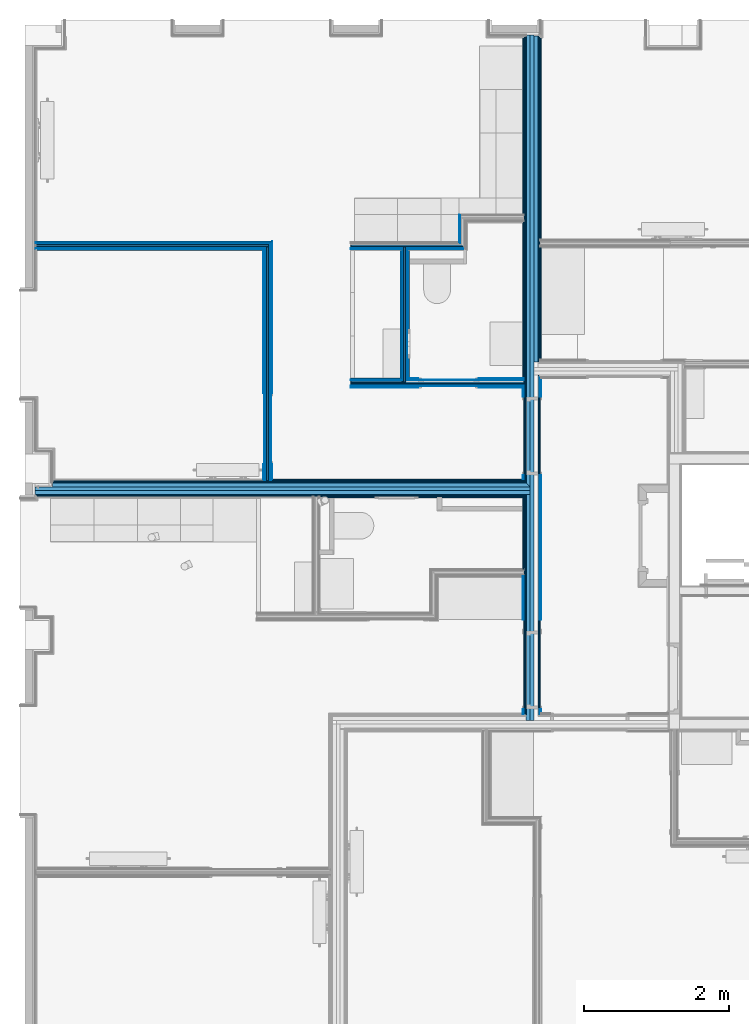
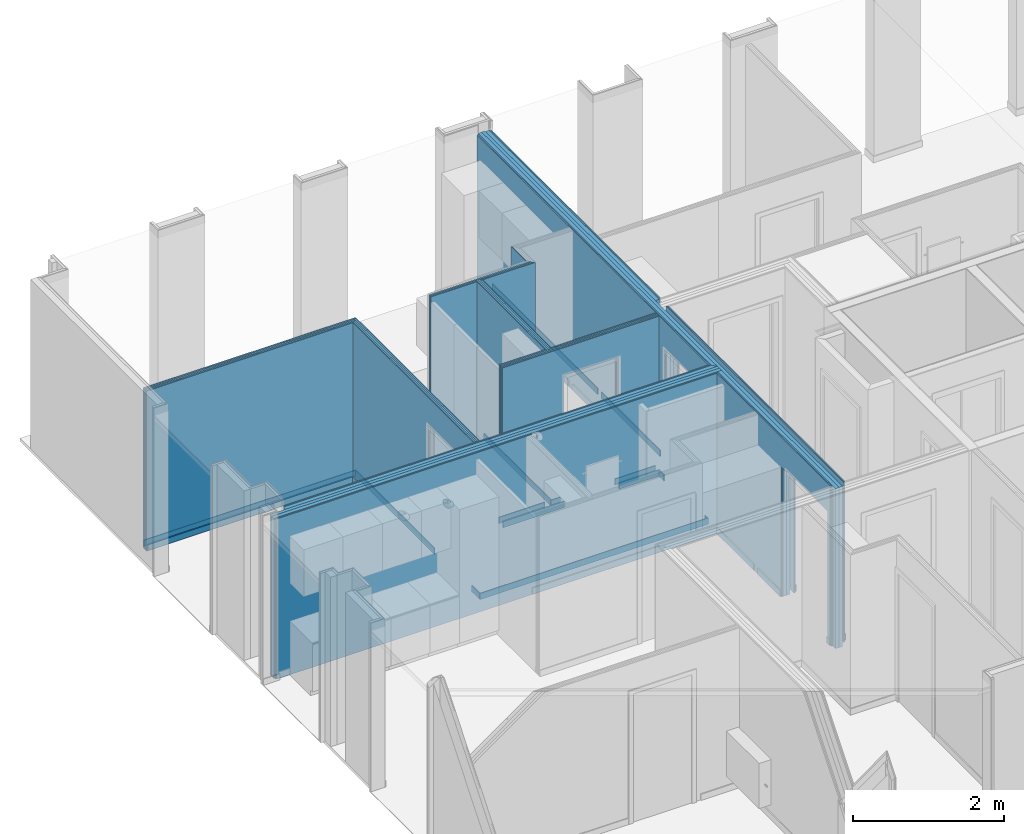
# One storey, part 13 of 85: 63 building element parts, 5 openings, 8 elements without a shape of their own.
"""IFC2X3 building model written with IfcOpenShell, lengths in metres."""

from ifc_helpers import new_model, entity, si_unit, converted_unit, derived_unit, money_unit, direction, frame, frame_2d, origin_with_axes, place, context, subcontext, project, spatial, polyline, rectangle, outline, extrude, material, type_object, element, aggregate, save


model = new_model("IFC2X3")

# Units and contexts
model_context = context("Model", 3, precision=1e-05, world=origin_with_axes(), true_north=direction((0.0, 1.0)))
body_context = subcontext(model_context, "Body", "Model", "MODEL_VIEW", scale=1.0)
ifc_project = project(units=[si_unit("LENGTHUNIT", "METRE"), si_unit("AREAUNIT", "SQUARE_METRE"), si_unit("VOLUMEUNIT", "CUBIC_METRE"), si_unit("ABSORBEDDOSEUNIT", "GRAY"), si_unit("AMOUNTOFSUBSTANCEUNIT", "MOLE"), si_unit("DOSEEQUIVALENTUNIT", "SIEVERT"), si_unit("ELECTRICCAPACITANCEUNIT", "FARAD"), si_unit("ELECTRICCHARGEUNIT", "COULOMB"), si_unit("ELECTRICCONDUCTANCEUNIT", "SIEMENS"), si_unit("ELECTRICCURRENTUNIT", "AMPERE"), si_unit("ELECTRICRESISTANCEUNIT", "OHM"), si_unit("ELECTRICVOLTAGEUNIT", "VOLT"), si_unit("ENERGYUNIT", "JOULE"), si_unit("FORCEUNIT", "NEWTON"), si_unit("FREQUENCYUNIT", "HERTZ"), si_unit("ILLUMINANCEUNIT", "LUX"), si_unit("INDUCTANCEUNIT", "HENRY"), si_unit("LUMINOUSFLUXUNIT", "LUMEN"), si_unit("LUMINOUSINTENSITYUNIT", "CANDELA"), si_unit("MAGNETICFLUXDENSITYUNIT", "TESLA"), si_unit("MAGNETICFLUXUNIT", "WEBER"), si_unit("MASSUNIT", "GRAM"), converted_unit("PLANEANGLEUNIT", "degree", entity("IfcReal", 0.0174532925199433), si_unit("PLANEANGLEUNIT", "RADIAN"), dimensions=[0, 0, 0, 0, 0, 0, 0]), si_unit("POWERUNIT", "WATT"), si_unit("PRESSUREUNIT", "PASCAL"), si_unit("RADIOACTIVITYUNIT", "BECQUEREL"), si_unit("SOLIDANGLEUNIT", "STERADIAN"), si_unit("THERMODYNAMICTEMPERATUREUNIT", "KELVIN"), si_unit("TIMEUNIT", "SECOND"), derived_unit("ACCELERATIONUNIT", [(si_unit("LENGTHUNIT", "METRE"), 1), (si_unit("TIMEUNIT", "SECOND"), -2)]), derived_unit("ANGULARVELOCITYUNIT", [(converted_unit("PLANEANGLEUNIT", "degree", entity("IfcReal", 0.0174532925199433), si_unit("PLANEANGLEUNIT", "RADIAN"), dimensions=[0, 0, 0, 0, 0, 0, 0]), 1), (si_unit("TIMEUNIT", "SECOND"), -1)]), derived_unit("CURVATUREUNIT", [(converted_unit("PLANEANGLEUNIT", "degree", entity("IfcReal", 0.0174532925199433), si_unit("PLANEANGLEUNIT", "RADIAN"), dimensions=[0, 0, 0, 0, 0, 0, 0]), 1), (si_unit("LENGTHUNIT", "METRE"), -1)]), derived_unit("DYNAMICVISCOSITYUNIT", [(si_unit("PRESSUREUNIT", "PASCAL"), 1), (si_unit("TIMEUNIT", "SECOND"), 1)]), derived_unit("HEATFLUXDENSITYUNIT", [(si_unit("POWERUNIT", "WATT"), 1), (si_unit("LENGTHUNIT", "METRE"), -2)]), derived_unit("HEATINGVALUEUNIT", [(si_unit("ENERGYUNIT", "JOULE"), 1), (si_unit("MASSUNIT", "GRAM"), -1)]), derived_unit("INTEGERCOUNTRATEUNIT", [(si_unit("TIMEUNIT", "SECOND"), -1)]), derived_unit("IONCONCENTRATIONUNIT", [(si_unit("MASSUNIT", "GRAM"), 1), (si_unit("VOLUMEUNIT", "CUBIC_METRE"), -1)]), derived_unit("ISOTHERMALMOISTURECAPACITYUNIT", [(si_unit("VOLUMEUNIT", "CUBIC_METRE"), 1), (si_unit("MASSUNIT", "GRAM"), -1)]), derived_unit("KINEMATICVISCOSITYUNIT", [(si_unit("AREAUNIT", "SQUARE_METRE"), 1), (si_unit("TIMEUNIT", "SECOND"), -1)]), derived_unit("LINEARFORCEUNIT", [(si_unit("FORCEUNIT", "NEWTON"), 1), (si_unit("LENGTHUNIT", "METRE"), -1)]), derived_unit("LINEARMOMENTUNIT", [(si_unit("FORCEUNIT", "NEWTON"), 1), (si_unit("LENGTHUNIT", "METRE"), -1)]), derived_unit("LINEARSTIFFNESSUNIT", [(si_unit("FORCEUNIT", "NEWTON"), 1), (si_unit("LENGTHUNIT", "METRE"), -1)]), derived_unit("LINEARVELOCITYUNIT", [(si_unit("LENGTHUNIT", "METRE"), 1), (si_unit("TIMEUNIT", "SECOND"), -1)]), derived_unit("LUMINOUSINTENSITYDISTRIBUTIONUNIT", [(si_unit("LUMINOUSINTENSITYUNIT", "CANDELA"), 1), (si_unit("LUMINOUSFLUXUNIT", "LUMEN"), -1)]), derived_unit("MASSDENSITYUNIT", [(si_unit("MASSUNIT", "GRAM"), 1), (si_unit("VOLUMEUNIT", "CUBIC_METRE"), -1)]), derived_unit("MASSFLOWRATEUNIT", [(si_unit("MASSUNIT", "GRAM"), 1), (si_unit("TIMEUNIT", "SECOND"), -1)]), derived_unit("MASSPERLENGTHUNIT", [(si_unit("MASSUNIT", "GRAM"), 1), (si_unit("LENGTHUNIT", "METRE"), -1)]), derived_unit("MODULUSOFELASTICITYUNIT", [(si_unit("FORCEUNIT", "NEWTON"), 1), (si_unit("AREAUNIT", "SQUARE_METRE"), -1)]), derived_unit("MODULUSOFLINEARSUBGRADEREACTIONUNIT", [(si_unit("FORCEUNIT", "NEWTON"), 1), (si_unit("LENGTHUNIT", "METRE"), -2)]), derived_unit("MODULUSOFROTATIONALSUBGRADEREACTIONUNIT", [(si_unit("FORCEUNIT", "NEWTON"), 1), (si_unit("LENGTHUNIT", "METRE"), 1)]), derived_unit("MODULUSOFSUBGRADEREACTIONUNIT", [(si_unit("FORCEUNIT", "NEWTON"), 1), (si_unit("VOLUMEUNIT", "CUBIC_METRE"), -1)]), derived_unit("MOISTUREDIFFUSIVITYUNIT", [(si_unit("VOLUMEUNIT", "CUBIC_METRE"), 1), (si_unit("TIMEUNIT", "SECOND"), -1)]), derived_unit("MOLECULARWEIGHTUNIT", [(si_unit("MASSUNIT", "GRAM"), 1), (si_unit("AMOUNTOFSUBSTANCEUNIT", "MOLE"), -1)]), derived_unit("PLANARFORCEUNIT", [(si_unit("FORCEUNIT", "NEWTON"), 1), (si_unit("LENGTHUNIT", "METRE"), -2)]), derived_unit("ROTATIONALFREQUENCYUNIT", [(si_unit("TIMEUNIT", "SECOND"), -1)]), derived_unit("ROTATIONALMASSUNIT", [(si_unit("MASSUNIT", "GRAM"), 1), (si_unit("LENGTHUNIT", "METRE"), 2)]), derived_unit("ROTATIONALSTIFFNESSUNIT", [(si_unit("FORCEUNIT", "NEWTON"), 1), (si_unit("LENGTHUNIT", "METRE"), 1), (converted_unit("PLANEANGLEUNIT", "degree", entity("IfcReal", 0.0174532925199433), si_unit("PLANEANGLEUNIT", "RADIAN"), dimensions=[0, 0, 0, 0, 0, 0, 0]), -1)]), derived_unit("SECTIONAREAINTEGRALUNIT", [(si_unit("LENGTHUNIT", "METRE"), 5)]), derived_unit("SECTIONMODULUSUNIT", [(si_unit("LENGTHUNIT", "METRE"), 3)]), derived_unit("SHEARMODULUSUNIT", [(si_unit("FORCEUNIT", "NEWTON"), 1), (si_unit("AREAUNIT", "SQUARE_METRE"), -1)]), derived_unit("SOUNDPOWERUNIT", [(si_unit("ENERGYUNIT", "JOULE"), 1), (si_unit("TIMEUNIT", "SECOND"), -1)]), derived_unit("SPECIFICHEATCAPACITYUNIT", [(si_unit("FORCEUNIT", "NEWTON"), 1), (si_unit("MASSUNIT", "GRAM"), -1), (si_unit("THERMODYNAMICTEMPERATUREUNIT", "KELVIN"), -1)]), derived_unit("TEMPERATUREGRADIENTUNIT", [(si_unit("THERMODYNAMICTEMPERATUREUNIT", "KELVIN"), 1), (si_unit("LENGTHUNIT", "METRE"), -1)]), derived_unit("THERMALADMITTANCEUNIT", [(si_unit("POWERUNIT", "WATT"), 1), (si_unit("AREAUNIT", "SQUARE_METRE"), -1), (si_unit("THERMODYNAMICTEMPERATUREUNIT", "KELVIN"), -1)]), derived_unit("THERMALCONDUCTANCEUNIT", [(si_unit("POWERUNIT", "WATT"), 1), (si_unit("LENGTHUNIT", "METRE"), -1), (si_unit("THERMODYNAMICTEMPERATUREUNIT", "KELVIN"), -1)]), derived_unit("THERMALEXPANSIONCOEFFICIENTUNIT", [(si_unit("THERMODYNAMICTEMPERATUREUNIT", "KELVIN"), -1)]), derived_unit("THERMALRESISTANCEUNIT", [(si_unit("AREAUNIT", "SQUARE_METRE"), 1), (si_unit("POWERUNIT", "WATT"), -1)]), derived_unit("THERMALTRANSMITTANCEUNIT", [(si_unit("POWERUNIT", "WATT"), 1), (si_unit("AREAUNIT", "SQUARE_METRE"), -1), (si_unit("THERMODYNAMICTEMPERATUREUNIT", "KELVIN"), -1)]), derived_unit("TORQUEUNIT", [(si_unit("FORCEUNIT", "NEWTON"), 1), (si_unit("LENGTHUNIT", "METRE"), 1)]), derived_unit("VAPORPERMEABILITYUNIT", [(si_unit("MASSUNIT", "GRAM"), 1), (si_unit("TIMEUNIT", "SECOND"), -1)]), derived_unit("VOLUMETRICFLOWRATEUNIT", [(si_unit("VOLUMEUNIT", "CUBIC_METRE"), 1), (si_unit("TIMEUNIT", "SECOND"), -1)]), derived_unit("WARPINGCONSTANTUNIT", [(si_unit("LENGTHUNIT", "METRE"), 6)]), derived_unit("WARPINGMOMENTUNIT", [(si_unit("FORCEUNIT", "NEWTON"), 1), (si_unit("LENGTHUNIT", "METRE"), 2)]), money_unit("GBP")], contexts=[model_context])

# Site, building, storey
site_placement = place(None, origin_with_axes())
site = spatial("IfcSite", under=ifc_project, at=site_placement, Name="Site", CompositionType="ELEMENT")
building_placement = place(site_placement, origin_with_axes())
building = spatial("IfcBuilding", under=site, at=building_placement, Name="Building01", CompositionType="ELEMENT")
storey_placement = place(building_placement, frame((0.0, 0.0, 12.13), z_axis=(0.0, 0.0, 1.0), x_axis=(1.0, 0.0, 0.0)))
storey = spatial("IfcBuildingStorey", under=building, at=storey_placement, Name="3F", CompositionType="ELEMENT", Elevation=12.13)

# Wall, building element parts
wall_type_1 = type_object("IfcWallType", Name="SHE_A-Walls_Type01c_Partywall_225mm_twin_tall", PredefinedType="NOTDEFINED")
wall_1_placement = place(storey_placement, frame((7.151669, 8.34767, 0.0), z_axis=(0.0, 0.0, 1.0), x_axis=(-1.0, 0.0, 0.0)))
wall_1 = element("IfcWall", 1, at=wall_1_placement, inside=storey, type_object=wall_type_1, Name="1C", ObjectType="SHE_A-Walls_Type01c_Partywall_225mm_twin_tall")
ifc_material_1 = material(Name="A_BSUK_Walls_Timber")
placement_1 = place(wall_1_placement, origin_with_axes())
building_element_part_1 = element("IfcBuildingElementPart", 2, at=placement_1, material=ifc_material_1, Name="1", context=body_context, shape_type="SweptSolid", body=[
    extrude(rectangle(XDim=3.495, YDim=0.015, at=frame_2d((1.8345, -0.0955), x_axis=(-1.0, 0.0))), frame((0.0, 0.0, 0.015), z_axis=(0.0, 0.0, 1.0), x_axis=(1.0, 0.0, 0.0)), (0.0, 0.0, 1.0), 0.1),
])
ifc_material_2 = material(Name="A_BSUK_WallInternal_Finishes_Plasterboard")
building_element_part_2 = element("IfcBuildingElementPart", 3, at=placement_1, material=ifc_material_2, Name="3", context=body_context, shape_type="SweptSolid", body=[
    extrude(outline(polyline([(0.072, -0.073), (0.087, -0.088), (6.589491, -0.088), (6.589491, -0.073), (0.072, -0.073)])), origin_with_axes(), (0.0, 0.0, 1.0), 2.59),
])
building_element_part_3 = element("IfcBuildingElementPart", 4, at=placement_1, material=ifc_material_2, Name="4", context=body_context, shape_type="SweptSolid", body=[
    extrude(outline(polyline([(6.603669, -0.058), (0.057, -0.058), (0.072, -0.073), (6.603669, -0.073), (6.603669, -0.058)])), origin_with_axes(), (0.0, 0.0, 1.0), 2.59),
])
ifc_material_3 = material(Name="Air Cavity")
building_element_part_4 = element("IfcBuildingElementPart", 5, at=placement_1, material=ifc_material_3, Name="5", context=body_context, shape_type="SweptSolid", body=[
    extrude(outline(polyline([(6.603669, 0.0), (-0.001, 0.0), (0.057, -0.058), (6.603669, -0.058), (6.603669, 0.0)])), origin_with_axes(), (0.0, 0.0, 1.0), 2.59),
])
ifc_material_4 = material(Name="A_BSUK_Insulation")
building_element_part_5 = element("IfcBuildingElementPart", 6, at=placement_1, material=ifc_material_4, Name="6", context=body_context, shape_type="SweptSolid", body=[
    extrude(rectangle(XDim=6.845669, YDim=0.05, at=frame_2d((3.422834, 0.025), x_axis=(-1.0, 0.0))), origin_with_axes(), (0.0, 0.0, 1.0), 2.59),
])
building_element_part_6 = element("IfcBuildingElementPart", 7, at=placement_1, material=ifc_material_3, Name="7", context=body_context, shape_type="SweptSolid", body=[
    extrude(rectangle(XDim=6.845669, YDim=0.057, at=frame_2d((3.422834, 0.0785), x_axis=(-1.0, 0.0))), origin_with_axes(), (0.0, 0.0, 1.0), 2.59),
])
building_element_part_7 = element("IfcBuildingElementPart", 8, at=placement_1, material=ifc_material_2, Name="8", context=body_context, shape_type="SweptSolid", body=[
    extrude(outline(polyline([(6.833669, 0.122), (0.072, 0.122), (0.057, 0.107), (6.833669, 0.107), (6.833669, 0.122)])), origin_with_axes(), (0.0, 0.0, 1.0), 2.59),
])
building_element_part_8 = element("IfcBuildingElementPart", 9, at=placement_1, material=ifc_material_2, Name="9", context=body_context, shape_type="SweptSolid", body=[
    extrude(outline(polyline([(0.087, 0.137), (0.072, 0.122), (6.818669, 0.122), (6.818669, 0.137), (0.087, 0.137)])), origin_with_axes(), (0.0, 0.0, 1.0), 2.59),
])
building_element_part_9 = element("IfcBuildingElementPart", 10, at=placement_1, material=ifc_material_1, Name="10", context=body_context, shape_type="SweptSolid", body=[
    extrude(rectangle(XDim=2.808939, YDim=0.015, at=frame_2d((1.506469, 0.1445), x_axis=(-1.0, 0.0))), frame((0.0, 0.0, 0.015), z_axis=(0.0, 0.0, 1.0), x_axis=(1.0, 0.0, 0.0)), (0.0, 0.0, 1.0), 0.1),
])
aggregate(wall_1, [building_element_part_1, building_element_part_2, building_element_part_3, building_element_part_4, building_element_part_5, building_element_part_6, building_element_part_7, building_element_part_8, building_element_part_9])

# Wall, openings, building element parts
wall_2_placement = place(storey_placement, frame((7.201669, 5.117, 0.0), z_axis=(0.0, 0.0, 1.0), x_axis=(0.0, 1.0, 0.0)))
wall_2 = element("IfcWall", 11, at=wall_2_placement, inside=storey, type_object=wall_type_1, Name="1C", ObjectType="SHE_A-Walls_Type01c_Partywall_225mm_twin_tall")
opening_1_placement = place(wall_2_placement, frame((0.307475, -0.103, -0.03), z_axis=(0.0, 0.0, 1.0), x_axis=(1.0, 0.0, 0.0)))
element("IfcOpeningElement", 12, at=opening_1_placement, cuts=wall_2, Name="Opening", ObjectType="Opening", context=body_context, shape_type="SweptSolid", body=[
    extrude(rectangle(XDim=1.084, YDim=2.142, at=frame_2d((-0.542, 1.071), x_axis=(-1.0, 0.0))), frame((0.0, 0.0, 0.0), z_axis=(0.0, 1.0, 0.0), x_axis=(-1.0, 0.0, 0.0)), (0.0, 0.0, 1.0), 0.255),
])
opening_2_placement = place(wall_2_placement, frame((3.391704, -0.103, 0.0), z_axis=(0.0, 0.0, 1.0), x_axis=(1.0, 0.0, 0.0)))
element("IfcOpeningElement", 13, at=opening_2_placement, cuts=wall_2, Name="Opening", ObjectType="Opening", context=body_context, shape_type="SweptSolid", body=[
    extrude(rectangle(XDim=2.142, YDim=1.084, at=frame_2d((-0.542, 1.071), x_axis=(0.0, -1.0))), frame((0.0, 0.0, 0.0), z_axis=(0.0, 1.0, 0.0), x_axis=(-1.0, 0.0, 0.0)), (0.0, 0.0, 1.0), 0.255),
])
opening_3_placement = place(wall_2_placement, frame((0.157475, -0.103, 0.0), z_axis=(0.0, 0.0, 1.0), x_axis=(1.0, 0.0, 0.0)))
element("IfcOpeningElement", 14, at=opening_3_placement, cuts=wall_2, Name="Opening", ObjectType="Opening", context=body_context, shape_type="SweptSolid", body=[
    extrude(rectangle(XDim=2.142, YDim=1.084, at=frame_2d((-0.542, 1.071), x_axis=(0.0, -1.0))), frame((0.0, 0.0, 0.0), z_axis=(0.0, 1.0, 0.0), x_axis=(-1.0, 0.0, 0.0)), (0.0, 0.0, 1.0), 0.255),
])
placement_2 = place(wall_2_placement, origin_with_axes())
building_element_part_10 = element("IfcBuildingElementPart", 15, at=placement_2, material=ifc_material_1, Name="1", context=body_context, shape_type="SweptSolid", body=[
    extrude(rectangle(XDim=4.657704, YDim=0.015, at=frame_2d((2.416852, -0.0955), x_axis=(-1.0, 0.0))), frame((0.0, 0.0, 0.015), z_axis=(0.0, 0.0, 1.0), x_axis=(1.0, 0.0, 0.0)), (0.0, 0.0, 1.0), 0.1),
])
building_element_part_11 = element("IfcBuildingElementPart", 16, at=placement_2, material=ifc_material_1, Name="2", context=body_context, shape_type="SweptSolid", body=[
    extrude(rectangle(XDim=1.56542, YDim=0.015, at=frame_2d((5.768414, -0.0955), x_axis=(-1.0, 0.0))), frame((0.0, 0.0, 0.015), z_axis=(0.0, 0.0, 1.0), x_axis=(1.0, 0.0, 0.0)), (0.0, 0.0, 1.0), 0.1),
])
building_element_part_12 = element("IfcBuildingElementPart", 17, at=placement_2, material=ifc_material_1, Name="3", context=body_context, shape_type="SweptSolid", body=[
    extrude(rectangle(XDim=0.015, YDim=2.788876, at=frame_2d((8.040562, -0.0955), x_axis=(0.0, -1.0))), frame((0.0, 0.0, 0.015), z_axis=(0.0, 0.0, 1.0), x_axis=(1.0, 0.0, 0.0)), (0.0, 0.0, 1.0), 0.1),
])
building_element_part_13 = element("IfcBuildingElementPart", 18, at=placement_2, material=ifc_material_2, Name="4", context=body_context, shape_type="SweptSolid", body=[
    extrude(rectangle(XDim=4.672704, YDim=0.015, at=frame_2d((2.424352, -0.0805), x_axis=(-1.0, 0.0))), origin_with_axes(), (0.0, 0.0, 1.0), 2.59),
])
building_element_part_14 = element("IfcBuildingElementPart", 19, at=placement_2, material=ifc_material_2, Name="5", context=body_context, shape_type="SweptSolid", body=[
    extrude(rectangle(XDim=0.015, YDim=4.479296, at=frame_2d((7.210352, -0.0805), x_axis=(0.0, -1.0))), origin_with_axes(), (0.0, 0.0, 1.0), 2.59),
])
building_element_part_15 = element("IfcBuildingElementPart", 20, at=placement_2, material=ifc_material_2, Name="6", context=body_context, shape_type="SweptSolid", body=[
    extrude(rectangle(XDim=4.702704, YDim=0.015, at=frame_2d((2.424352, -0.0655), x_axis=(-1.0, 0.0))), origin_with_axes(), (0.0, 0.0, 1.0), 2.59),
])
building_element_part_16 = element("IfcBuildingElementPart", 21, at=placement_2, material=ifc_material_2, Name="7", context=body_context, shape_type="SweptSolid", body=[
    extrude(rectangle(XDim=0.015, YDim=4.509296, at=frame_2d((7.210352, -0.0655), x_axis=(0.0, -1.0))), origin_with_axes(), (0.0, 0.0, 1.0), 2.59),
])
building_element_part_17 = element("IfcBuildingElementPart", 22, at=placement_2, material=ifc_material_3, Name="8", context=body_context, shape_type="SweptSolid", body=[
    extrude(rectangle(XDim=0.058, YDim=4.509296, at=frame_2d((7.210352, -0.029), x_axis=(0.0, -1.0))), origin_with_axes(), (0.0, 0.0, 1.0), 2.59),
])
building_element_part_18 = element("IfcBuildingElementPart", 23, at=placement_2, material=ifc_material_4, Name="9", context=body_context, shape_type="SweptSolid", body=[
    extrude(rectangle(XDim=9.477, YDim=0.05, at=frame_2d((4.7385, 0.025), x_axis=(-1.0, 0.0))), origin_with_axes(), (0.0, 0.0, 1.0), 2.59),
])
building_element_part_19 = element("IfcBuildingElementPart", 24, at=placement_2, material=ifc_material_3, Name="10", context=body_context, shape_type="SweptSolid", body=[
    extrude(rectangle(XDim=9.477, YDim=0.057, at=frame_2d((4.7385, 0.0785), x_axis=(-1.0, 0.0))), origin_with_axes(), (0.0, 0.0, 1.0), 2.59),
])
building_element_part_20 = element("IfcBuildingElementPart", 25, at=placement_2, material=ifc_material_2, Name="11", context=body_context, shape_type="SweptSolid", body=[
    extrude(outline(polyline([(3.10867, 0.122), (0.073, 0.122), (0.073, 0.107), (3.12367, 0.107), (3.10867, 0.122)])), origin_with_axes(), (0.0, 0.0, 1.0), 2.59),
])
building_element_part_21 = element("IfcBuildingElementPart", 26, at=placement_2, material=ifc_material_2, Name="12", context=body_context, shape_type="SweptSolid", body=[
    extrude(outline(polyline([(9.465, 0.122), (3.30367, 0.122), (3.28867, 0.107), (9.465, 0.107), (9.465, 0.122)])), origin_with_axes(), (0.0, 0.0, 1.0), 2.59),
])
building_element_part_22 = element("IfcBuildingElementPart", 27, at=placement_2, material=ifc_material_2, Name="13", context=body_context, shape_type="SweptSolid", body=[
    extrude(outline(polyline([(3.09367, 0.137), (0.088, 0.137), (0.088, 0.122), (3.10867, 0.122), (3.09367, 0.137)])), origin_with_axes(), (0.0, 0.0, 1.0), 2.59),
])
building_element_part_23 = element("IfcBuildingElementPart", 28, at=placement_2, material=ifc_material_2, Name="14", context=body_context, shape_type="SweptSolid", body=[
    extrude(outline(polyline([(9.45, 0.137), (3.31867, 0.137), (3.30367, 0.122), (9.45, 0.122), (9.45, 0.137)])), origin_with_axes(), (0.0, 0.0, 1.0), 2.59),
])
building_element_part_24 = element("IfcBuildingElementPart", 29, at=placement_2, material=ifc_material_1, Name="15", context=body_context, shape_type="SweptSolid", body=[
    extrude(rectangle(XDim=1.906475, YDim=0.015, at=frame_2d((1.041238, 0.1445), x_axis=(-1.0, 0.0))), frame((0.0, 0.0, 0.015), z_axis=(0.0, 0.0, 1.0), x_axis=(1.0, 0.0, 0.0)), (0.0, 0.0, 1.0), 0.1),
])
building_element_part_25 = element("IfcBuildingElementPart", 30, at=placement_2, material=ifc_material_1, Name="16", context=body_context, shape_type="SweptSolid", body=[
    extrude(rectangle(XDim=1.27, YDim=0.015, at=frame_2d((3.96867, 0.1445), x_axis=(-1.0, 0.0))), frame((0.0, 0.0, 0.015), z_axis=(0.0, 0.0, 1.0), x_axis=(1.0, 0.0, 0.0)), (0.0, 0.0, 1.0), 0.1),
])
building_element_part_26 = element("IfcBuildingElementPart", 31, at=placement_2, material=ifc_material_1, Name="17", context=body_context, shape_type="SweptSolid", body=[
    extrude(rectangle(XDim=2.44133, YDim=0.015, at=frame_2d((8.214335, 0.1445), x_axis=(-1.0, 0.0))), frame((0.0, 0.0, 0.015), z_axis=(0.0, 0.0, 1.0), x_axis=(1.0, 0.0, 0.0)), (0.0, 0.0, 1.0), 0.1),
])
building_element_part_27 = element("IfcBuildingElementPart", 32, at=placement_2, material=ifc_material_1, Name="18", context=body_context, shape_type="SweptSolid", body=[
    extrude(rectangle(XDim=2.17, YDim=0.015, at=frame_2d((5.81367, 0.1445), x_axis=(-1.0, 0.0))), frame((0.0, 0.0, 0.015), z_axis=(0.0, 0.0, 1.0), x_axis=(1.0, 0.0, 0.0)), (0.0, 0.0, 1.0), 0.1),
])
building_element_part_28 = element("IfcBuildingElementPart", 33, at=placement_2, material=ifc_material_1, Name="19", context=body_context, shape_type="SweptSolid", body=[
    extrude(rectangle(XDim=1.004195, YDim=0.015, at=frame_2d((2.591572, 0.1445), x_axis=(-1.0, 0.0))), frame((0.0, 0.0, 0.015), z_axis=(0.0, 0.0, 1.0), x_axis=(1.0, 0.0, 0.0)), (0.0, 0.0, 1.0), 0.1),
])
aggregate(wall_2, [building_element_part_10, building_element_part_11, building_element_part_12, building_element_part_13, building_element_part_14, building_element_part_15, building_element_part_16, building_element_part_17, building_element_part_18, building_element_part_19, building_element_part_20, building_element_part_21, building_element_part_22, building_element_part_23, building_element_part_24, building_element_part_25, building_element_part_26, building_element_part_27, building_element_part_28])

# Wall, building element parts
wall_type_2 = type_object("IfcWallType", Name="SHE_A-Walls_Type05a_Partition_95mm_tall", PredefinedType="NOTDEFINED")
wall_3_placement = place(storey_placement, frame((0.318, 11.69067, 0.0), z_axis=(0.0, 0.0, 1.0), x_axis=(1.0, 0.0, 0.0)))
wall_3 = element("IfcWall", 34, at=wall_3_placement, inside=storey, type_object=wall_type_2, Name="5A", ObjectType="SHE_A-Walls_Type05a_Partition_95mm_tall")
placement_3 = place(wall_3_placement, origin_with_axes())
building_element_part_29 = element("IfcBuildingElementPart", 35, at=placement_3, material=ifc_material_1, Name="1", context=body_context, shape_type="SweptSolid", body=[
    extrude(outline(polyline([(3.156669, -0.06), (0.015, -0.06), (0.015, -0.075), (3.141669, -0.075), (3.156669, -0.06)])), frame((0.0, 0.0, 0.015), z_axis=(0.0, 0.0, 1.0), x_axis=(1.0, 0.0, 0.0)), (0.0, 0.0, 1.0), 0.1),
])
building_element_part_30 = element("IfcBuildingElementPart", 36, at=placement_3, material=ifc_material_2, Name="2", context=body_context, shape_type="SweptSolid", body=[
    extrude(outline(polyline([(3.168669, -0.048), (0.0, -0.048), (0.0, -0.06), (3.156669, -0.06), (3.168669, -0.048)])), origin_with_axes(), (0.0, 0.0, 1.0), 2.59),
])
building_element_part_31 = element("IfcBuildingElementPart", 37, at=placement_3, material=ifc_material_3, Name="3", context=body_context, shape_type="SweptSolid", body=[
    extrude(outline(polyline([(3.191669, -0.025), (0.0, -0.025), (0.0, -0.048), (3.168669, -0.048), (3.191669, -0.025)])), origin_with_axes(), (0.0, 0.0, 1.0), 2.59),
])
building_element_part_32 = element("IfcBuildingElementPart", 38, at=placement_3, material=ifc_material_4, Name="4", context=body_context, shape_type="SweptSolid", body=[
    extrude(rectangle(XDim=3.216669, YDim=0.025, at=frame_2d((1.608334, -0.0125), x_axis=(-1.0, 0.0))), origin_with_axes(), (0.0, 0.0, 1.0), 2.59),
])
building_element_part_33 = element("IfcBuildingElementPart", 39, at=placement_3, material=ifc_material_3, Name="5", context=body_context, shape_type="SweptSolid", body=[
    extrude(rectangle(XDim=3.216669, YDim=0.023, at=frame_2d((1.608334, 0.0115), x_axis=(-1.0, 0.0))), origin_with_axes(), (0.0, 0.0, 1.0), 2.59),
])
building_element_part_34 = element("IfcBuildingElementPart", 40, at=placement_3, material=ifc_material_2, Name="6", context=body_context, shape_type="SweptSolid", body=[
    extrude(outline(polyline([(3.251669, 0.035), (0.0, 0.035), (0.0, 0.023), (3.239669, 0.023), (3.251669, 0.035)])), origin_with_axes(), (0.0, 0.0, 1.0), 2.59),
])
building_element_part_35 = element("IfcBuildingElementPart", 41, at=placement_3, material=ifc_material_1, Name="7", context=body_context, shape_type="SweptSolid", body=[
    extrude(outline(polyline([(3.266669, 0.05), (0.015, 0.05), (0.015, 0.035), (3.251669, 0.035), (3.266669, 0.05)])), frame((0.0, 0.0, 0.015), z_axis=(0.0, 0.0, 1.0), x_axis=(1.0, 0.0, 0.0)), (0.0, 0.0, 1.0), 0.1),
])
aggregate(wall_3, [building_element_part_29, building_element_part_30, building_element_part_31, building_element_part_32, building_element_part_33, building_element_part_34, building_element_part_35])

# Wall, building element part
wall_4_placement = place(storey_placement, frame((6.229669, 11.66567, 0.0), z_axis=(0.0, 0.0, 1.0), x_axis=(0.0, 1.0, 0.0)))
wall_4 = element("IfcWall", 42, at=wall_4_placement, inside=storey, type_object=wall_type_2, Name="5A", ObjectType="SHE_A-Walls_Type05a_Partition_95mm_tall")
building_element_part_36_placement = place(wall_4_placement, origin_with_axes())
building_element_part_36 = element("IfcBuildingElementPart", 43, at=building_element_part_36_placement, material=ifc_material_2, Name="6", context=body_context, shape_type="SweptSolid", body=[
    extrude(outline(polyline([(0.445, 0.06), (0.06, 0.06), (0.048, 0.048), (0.433, 0.048), (0.445, 0.06)])), origin_with_axes(), (0.0, 0.0, 1.0), 2.59),
])
aggregate(wall_4, [building_element_part_36])

# Wall, building element parts
wall_5_placement = place(storey_placement, frame((4.669669, 11.66567, 0.0), z_axis=(0.0, 0.0, 1.0), x_axis=(1.0, 0.0, 0.0)))
wall_5 = element("IfcWall", 44, at=wall_5_placement, inside=storey, type_object=wall_type_2, Name="5A", ObjectType="SHE_A-Walls_Type05a_Partition_95mm_tall")
placement_4 = place(wall_5_placement, origin_with_axes())
building_element_part_37 = element("IfcBuildingElementPart", 45, at=placement_4, material=ifc_material_2, Name="3", context=body_context, shape_type="SweptSolid", body=[
    extrude(rectangle(XDim=0.712, YDim=0.012, at=frame_2d((0.356, -0.029), x_axis=(-1.0, 0.0))), origin_with_axes(), (0.0, 0.0, 1.0), 2.59),
])
building_element_part_38 = element("IfcBuildingElementPart", 46, at=placement_4, material=ifc_material_2, Name="4", context=body_context, shape_type="SweptSolid", body=[
    extrude(outline(polyline([(1.583, -0.023), (0.783, -0.023), (0.783, -0.035), (1.595, -0.035), (1.583, -0.023)])), origin_with_axes(), (0.0, 0.0, 1.0), 2.59),
])
building_element_part_39 = element("IfcBuildingElementPart", 47, at=placement_4, material=ifc_material_3, Name="5", context=body_context, shape_type="SweptSolid", body=[
    extrude(outline(polyline([(1.56, 0.0), (0.783, 0.0), (0.783, -0.023), (1.583, -0.023), (1.56, 0.0)])), origin_with_axes(), (0.0, 0.0, 1.0), 2.59),
])
building_element_part_40 = element("IfcBuildingElementPart", 48, at=placement_4, material=ifc_material_4, Name="6", context=body_context, shape_type="SweptSolid", body=[
    extrude(outline(polyline([(1.535, 0.025), (0.0, 0.025), (0.0, 0.0), (1.56, 0.0), (1.535, 0.025)])), origin_with_axes(), (0.0, 0.0, 1.0), 2.59),
])
aggregate(wall_5, [building_element_part_37, building_element_part_38, building_element_part_39, building_element_part_40])

# Wall, opening, building element parts
wall_6_placement = place(storey_placement, frame((7.064669, 9.79567, 0.0), z_axis=(0.0, 0.0, 1.0), x_axis=(-1.0, 0.0, 0.0)))
wall_6 = element("IfcWall", 49, at=wall_6_placement, inside=storey, type_object=wall_type_2, Name="5A", ObjectType="SHE_A-Walls_Type05a_Partition_95mm_tall")
opening_4_placement = place(wall_6_placement, frame((0.624, -0.05, 0.0), z_axis=(0.0, 0.0, 1.0), x_axis=(1.0, 0.0, 0.0)))
element("IfcOpeningElement", 50, at=opening_4_placement, cuts=wall_6, Name="Opening", ObjectType="Opening", context=body_context, shape_type="SweptSolid", body=[
    extrude(rectangle(XDim=2.142, YDim=0.834, at=frame_2d((-0.417, 1.071), x_axis=(0.0, -1.0))), frame((0.0, 0.0, 0.0), z_axis=(0.0, 1.0, 0.0), x_axis=(-1.0, 0.0, 0.0)), (0.0, 0.0, 1.0), 0.125),
])
placement_5 = place(wall_6_placement, origin_with_axes())
building_element_part_41 = element("IfcBuildingElementPart", 51, at=placement_5, material=ifc_material_1, Name="1", context=body_context, shape_type="SweptSolid", body=[
    extrude(rectangle(XDim=1.6, YDim=0.015, at=frame_2d((0.8, -0.0425), x_axis=(-1.0, 0.0))), frame((0.0, 0.0, 0.015), z_axis=(0.0, 0.0, 1.0), x_axis=(1.0, 0.0, 0.0)), (0.0, 0.0, 1.0), 0.1),
])
building_element_part_42 = element("IfcBuildingElementPart", 52, at=placement_5, material=ifc_material_1, Name="2", context=body_context, shape_type="SweptSolid", body=[
    extrude(rectangle(XDim=0.7, YDim=0.015, at=frame_2d((2.045, -0.0425), x_axis=(-1.0, 0.0))), frame((0.0, 0.0, 0.015), z_axis=(0.0, 0.0, 1.0), x_axis=(1.0, 0.0, 0.0)), (0.0, 0.0, 1.0), 0.1),
])
building_element_part_43 = element("IfcBuildingElementPart", 53, at=placement_5, material=ifc_material_2, Name="3", context=body_context, shape_type="SweptSolid", body=[
    extrude(rectangle(XDim=1.612, YDim=0.012, at=frame_2d((0.806, -0.029), x_axis=(-1.0, 0.0))), origin_with_axes(), (0.0, 0.0, 1.0), 2.59),
])
building_element_part_44 = element("IfcBuildingElementPart", 54, at=placement_5, material=ifc_material_2, Name="4", context=body_context, shape_type="SweptSolid", body=[
    extrude(rectangle(XDim=0.712, YDim=0.012, at=frame_2d((2.039, -0.029), x_axis=(-1.0, 0.0))), origin_with_axes(), (0.0, 0.0, 1.0), 2.59),
])
building_element_part_45 = element("IfcBuildingElementPart", 55, at=placement_5, material=ifc_material_3, Name="5", context=body_context, shape_type="SweptSolid", body=[
    extrude(rectangle(XDim=0.712, YDim=0.023, at=frame_2d((2.039, -0.0115), x_axis=(-1.0, 0.0))), origin_with_axes(), (0.0, 0.0, 1.0), 2.59),
])
building_element_part_46 = element("IfcBuildingElementPart", 56, at=placement_5, material=ifc_material_4, Name="6", context=body_context, shape_type="SweptSolid", body=[
    extrude(rectangle(XDim=2.395, YDim=0.025, at=frame_2d((1.1975, 0.0125), x_axis=(-1.0, 0.0))), origin_with_axes(), (0.0, 0.0, 1.0), 2.59),
])
building_element_part_47 = element("IfcBuildingElementPart", 57, at=placement_5, material=ifc_material_3, Name="7", context=body_context, shape_type="SweptSolid", body=[
    extrude(rectangle(XDim=2.395, YDim=0.023, at=frame_2d((1.1975, 0.0365), x_axis=(-1.0, 0.0))), origin_with_axes(), (0.0, 0.0, 1.0), 2.59),
])
building_element_part_48 = element("IfcBuildingElementPart", 58, at=placement_5, material=ifc_material_2, Name="8", context=body_context, shape_type="SweptSolid", body=[
    extrude(rectangle(XDim=2.395, YDim=0.012, at=frame_2d((1.1975, 0.054), x_axis=(-1.0, 0.0))), origin_with_axes(), (0.0, 0.0, 1.0), 2.59),
])
building_element_part_49 = element("IfcBuildingElementPart", 59, at=placement_5, material=ifc_material_1, Name="9", context=body_context, shape_type="SweptSolid", body=[
    extrude(rectangle(XDim=2.395, YDim=0.015, at=frame_2d((1.1975, 0.0675), x_axis=(-1.0, 0.0))), frame((0.0, 0.0, 0.015), z_axis=(0.0, 0.0, 1.0), x_axis=(1.0, 0.0, 0.0)), (0.0, 0.0, 1.0), 0.1),
])
aggregate(wall_6, [building_element_part_41, building_element_part_42, building_element_part_43, building_element_part_44, building_element_part_45, building_element_part_46, building_element_part_47, building_element_part_48, building_element_part_49])

wall_7_placement = place(storey_placement, frame((3.534669, 8.43567, 0.0), z_axis=(0.0, 0.0, 1.0), x_axis=(0.0, 1.0, 0.0)))
wall_7 = element("IfcWall", 60, at=wall_7_placement, inside=storey, type_object=wall_type_2, Name="5A", ObjectType="SHE_A-Walls_Type05a_Partition_95mm_tall")
opening_5_placement = place(wall_7_placement, frame((0.223034, -0.05, 0.0), z_axis=(0.0, 0.0, 1.0), x_axis=(1.0, 0.0, 0.0)))
element("IfcOpeningElement", 61, at=opening_5_placement, cuts=wall_7, Name="Opening", ObjectType="Opening", context=body_context, shape_type="SweptSolid", body=[
    extrude(rectangle(XDim=0.984, YDim=2.142, at=frame_2d((-0.492, 1.071), x_axis=(1.0, 0.0))), frame((0.0, 0.0, 0.0), z_axis=(0.0, 1.0, 0.0), x_axis=(-1.0, 0.0, 0.0)), (0.0, 0.0, 1.0), 0.125),
])
placement_6 = place(wall_7_placement, origin_with_axes())
building_element_part_50 = element("IfcBuildingElementPart", 62, at=placement_6, material=ifc_material_1, Name="1", context=body_context, shape_type="SweptSolid", body=[
    extrude(outline(polyline([(3.29, -0.035), (0.015, -0.035), (0.015, -0.05), (3.305, -0.05), (3.29, -0.035)])), frame((0.0, 0.0, 0.015), z_axis=(0.0, 0.0, 1.0), x_axis=(1.0, 0.0, 0.0)), (0.0, 0.0, 1.0), 0.1),
])
building_element_part_51 = element("IfcBuildingElementPart", 63, at=placement_6, material=ifc_material_2, Name="2", context=body_context, shape_type="SweptSolid", body=[
    extrude(outline(polyline([(3.278, -0.023), (0.0, -0.023), (0.0, -0.035), (3.29, -0.035), (3.278, -0.023)])), origin_with_axes(), (0.0, 0.0, 1.0), 2.59),
])
building_element_part_52 = element("IfcBuildingElementPart", 64, at=placement_6, material=ifc_material_3, Name="3", context=body_context, shape_type="SweptSolid", body=[
    extrude(outline(polyline([(3.255, 0.0), (0.0, 0.0), (0.0, -0.023), (3.278, -0.023), (3.255, 0.0)])), origin_with_axes(), (0.0, 0.0, 1.0), 2.59),
])
building_element_part_53 = element("IfcBuildingElementPart", 65, at=placement_6, material=ifc_material_4, Name="4", context=body_context, shape_type="SweptSolid", body=[
    extrude(rectangle(XDim=3.23, YDim=0.025, at=frame_2d((1.615, 0.0125), x_axis=(-1.0, 0.0))), origin_with_axes(), (0.0, 0.0, 1.0), 2.59),
])
building_element_part_54 = element("IfcBuildingElementPart", 66, at=placement_6, material=ifc_material_3, Name="5", context=body_context, shape_type="SweptSolid", body=[
    extrude(rectangle(XDim=3.23, YDim=0.023, at=frame_2d((1.615, 0.0365), x_axis=(-1.0, 0.0))), origin_with_axes(), (0.0, 0.0, 1.0), 2.59),
])
building_element_part_55 = element("IfcBuildingElementPart", 67, at=placement_6, material=ifc_material_2, Name="6", context=body_context, shape_type="SweptSolid", body=[
    extrude(outline(polyline([(3.195, 0.06), (0.0, 0.06), (0.0, 0.048), (3.207, 0.048), (3.195, 0.06)])), origin_with_axes(), (0.0, 0.0, 1.0), 2.59),
])
building_element_part_56 = element("IfcBuildingElementPart", 68, at=placement_6, material=ifc_material_1, Name="7", context=body_context, shape_type="SweptSolid", body=[
    extrude(outline(polyline([(3.18, 0.075), (0.015, 0.075), (0.015, 0.06), (3.195, 0.06), (3.18, 0.075)])), frame((0.0, 0.0, 0.015), z_axis=(0.0, 0.0, 1.0), x_axis=(1.0, 0.0, 0.0)), (0.0, 0.0, 1.0), 0.1),
])
aggregate(wall_7, [building_element_part_50, building_element_part_51, building_element_part_52, building_element_part_53, building_element_part_54, building_element_part_55, building_element_part_56])

# Wall, building element parts
wall_8_placement = place(storey_placement, frame((5.429669, 9.79567, 0.0), z_axis=(0.0, 0.0, 1.0), x_axis=(0.0, 1.0, 0.0)))
wall_8 = element("IfcWall", 69, at=wall_8_placement, inside=storey, type_object=wall_type_2, Name="5A", ObjectType="SHE_A-Walls_Type05a_Partition_95mm_tall")
placement_7 = place(wall_8_placement, origin_with_axes())
building_element_part_57 = element("IfcBuildingElementPart", 70, at=placement_7, material=ifc_material_1, Name="1", context=body_context, shape_type="SweptSolid", body=[
    extrude(rectangle(XDim=1.77, YDim=0.015, at=frame_2d((0.935, -0.0425), x_axis=(-1.0, 0.0))), frame((0.0, 0.0, 0.015), z_axis=(0.0, 0.0, 1.0), x_axis=(1.0, 0.0, 0.0)), (0.0, 0.0, 1.0), 0.1),
])
building_element_part_58 = element("IfcBuildingElementPart", 71, at=placement_7, material=ifc_material_2, Name="2", context=body_context, shape_type="SweptSolid", body=[
    extrude(rectangle(XDim=1.8, YDim=0.012, at=frame_2d((0.935, -0.029), x_axis=(-1.0, 0.0))), origin_with_axes(), (0.0, 0.0, 1.0), 2.59),
])
building_element_part_59 = element("IfcBuildingElementPart", 72, at=placement_7, material=ifc_material_3, Name="3", context=body_context, shape_type="SweptSolid", body=[
    extrude(rectangle(XDim=1.8, YDim=0.023, at=frame_2d((0.935, -0.0115), x_axis=(-1.0, 0.0))), origin_with_axes(), (0.0, 0.0, 1.0), 2.59),
])
building_element_part_60 = element("IfcBuildingElementPart", 73, at=placement_7, material=ifc_material_4, Name="4", context=body_context, shape_type="SweptSolid", body=[
    extrude(rectangle(XDim=1.87, YDim=0.025, at=frame_2d((0.935, 0.0125), x_axis=(-1.0, 0.0))), origin_with_axes(), (0.0, 0.0, 1.0), 2.59),
])
building_element_part_61 = element("IfcBuildingElementPart", 74, at=placement_7, material=ifc_material_3, Name="5", context=body_context, shape_type="SweptSolid", body=[
    extrude(rectangle(XDim=1.87, YDim=0.023, at=frame_2d((0.935, 0.0365), x_axis=(-1.0, 0.0))), origin_with_axes(), (0.0, 0.0, 1.0), 2.59),
])
building_element_part_62 = element("IfcBuildingElementPart", 75, at=placement_7, material=ifc_material_2, Name="6", context=body_context, shape_type="SweptSolid", body=[
    extrude(rectangle(XDim=1.8, YDim=0.012, at=frame_2d((0.935, 0.054), x_axis=(-1.0, 0.0))), origin_with_axes(), (0.0, 0.0, 1.0), 2.59),
])
building_element_part_63 = element("IfcBuildingElementPart", 76, at=placement_7, material=ifc_material_1, Name="7", context=body_context, shape_type="SweptSolid", body=[
    extrude(rectangle(XDim=1.77, YDim=0.015, at=frame_2d((0.935, 0.0675), x_axis=(-1.0, 0.0))), frame((0.0, 0.0, 0.015), z_axis=(0.0, 0.0, 1.0), x_axis=(1.0, 0.0, 0.0)), (0.0, 0.0, 1.0), 0.1),
])
aggregate(wall_8, [building_element_part_57, building_element_part_58, building_element_part_59, building_element_part_60, building_element_part_61, building_element_part_62, building_element_part_63])

save(model, "model.ifc")
